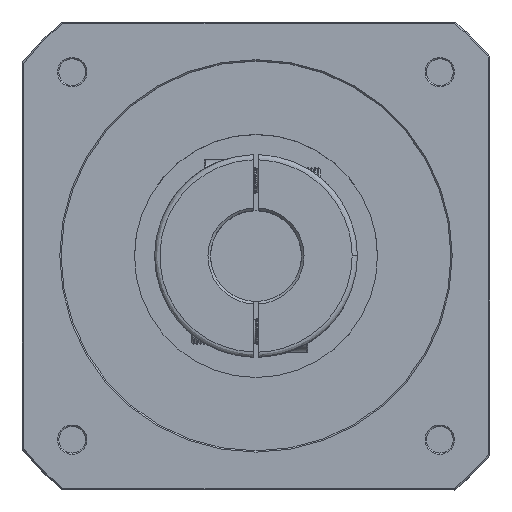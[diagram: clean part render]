
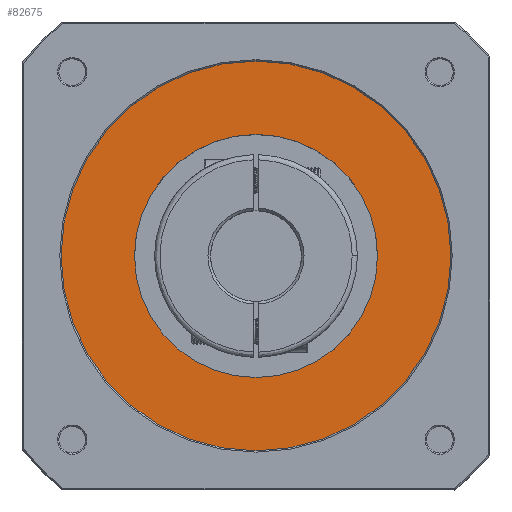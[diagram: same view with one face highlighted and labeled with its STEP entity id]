
A CAD part, top view. The second image highlights one B-rep face of the part: STEP entity #82675.
In plain terms, the highlighted planar face has unit normal (0, 0, -1).
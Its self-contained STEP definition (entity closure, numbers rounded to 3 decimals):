
#6024 = ORIENTED_EDGE ( 'NONE', *, *, #58544, .T. ) ;
#6358 = CARTESIAN_POINT ( 'NONE',  ( -46.75, 0., 157.5 ) ) ;
#11364 = CARTESIAN_POINT ( 'NONE',  ( 0., 0., 157.5 ) ) ;
#11596 = CARTESIAN_POINT ( 'NONE',  ( -75.9, -75.9, 157.5 ) ) ;
#13867 = CIRCLE ( 'NONE', #59118, 46.75 ) ;
#14301 = AXIS2_PLACEMENT_3D ( 'NONE', #63114, #15712, #71109 ) ;
#15712 = DIRECTION ( 'NONE',  ( 0., 0., -1. ) ) ;
#19392 = DIRECTION ( 'NONE',  ( -1., 0., 0. ) ) ;
#19628 = DIRECTION ( 'NONE',  ( 1., 0., 0. ) ) ;
#21132 = ORIENTED_EDGE ( 'NONE', *, *, #92180, .T. ) ;
#24842 = CARTESIAN_POINT ( 'NONE',  ( 0., 0., 157.5 ) ) ;
#31194 = VERTEX_POINT ( 'NONE', #62746 ) ;
#32801 = DIRECTION ( 'NONE',  ( 1., 0., 0. ) ) ;
#34982 = EDGE_CURVE ( 'NONE', #62116, #31194, #13867, .T. ) ;
#38250 = DIRECTION ( 'NONE',  ( 0., 0., 1. ) ) ;
#42141 = FACE_OUTER_BOUND ( 'NONE', #100954, .T. ) ;
#42724 = CARTESIAN_POINT ( 'NONE',  ( 75., 0., 157.5 ) ) ;
#45840 = AXIS2_PLACEMENT_3D ( 'NONE', #24842, #80212, #32801 ) ;
#58544 = EDGE_CURVE ( 'NONE', #95025, #91452, #75585, .T. ) ;
#59118 = AXIS2_PLACEMENT_3D ( 'NONE', #85642, #38250, #93592 ) ;
#60064 = EDGE_CURVE ( 'NONE', #31194, #62116, #93749, .T. ) ;
#60923 = ORIENTED_EDGE ( 'NONE', *, *, #60064, .T. ) ;
#62116 = VERTEX_POINT ( 'NONE', #6358 ) ;
#62746 = CARTESIAN_POINT ( 'NONE',  ( 46.75, 0., 157.5 ) ) ;
#63114 = CARTESIAN_POINT ( 'NONE',  ( 0., 0., 157.5 ) ) ;
#63968 = AXIS2_PLACEMENT_3D ( 'NONE', #11364, #66751, #19392 ) ;
#66751 = DIRECTION ( 'NONE',  ( 0., 0., 1. ) ) ;
#66988 = DIRECTION ( 'NONE',  ( 0., 0., 1. ) ) ;
#68152 = FACE_BOUND ( 'NONE', #76878, .T. ) ;
#71109 = DIRECTION ( 'NONE',  ( 1., 0., 0. ) ) ;
#75585 = CIRCLE ( 'NONE', #45840, 75. ) ;
#76777 = CARTESIAN_POINT ( 'NONE',  ( -75., 0., 157.5 ) ) ;
#76878 = EDGE_LOOP ( 'NONE', ( #98928, #60923 ) ) ;
#80212 = DIRECTION ( 'NONE',  ( 0., 0., -1. ) ) ;
#82675 = ADVANCED_FACE ( 'NONE', ( #68152, #42141 ), #90198, .F. ) ;
#85642 = CARTESIAN_POINT ( 'NONE',  ( 0., 0., 157.5 ) ) ;
#90198 = PLANE ( 'NONE',  #90731 ) ;
#90731 = AXIS2_PLACEMENT_3D ( 'NONE', #11596, #66988, #19628 ) ;
#91452 = VERTEX_POINT ( 'NONE', #76777 ) ;
#92180 = EDGE_CURVE ( 'NONE', #91452, #95025, #98746, .T. ) ;
#93592 = DIRECTION ( 'NONE',  ( -1., 0., 0. ) ) ;
#93749 = CIRCLE ( 'NONE', #63968, 46.75 ) ;
#95025 = VERTEX_POINT ( 'NONE', #42724 ) ;
#98746 = CIRCLE ( 'NONE', #14301, 75. ) ;
#98928 = ORIENTED_EDGE ( 'NONE', *, *, #34982, .T. ) ;
#100954 = EDGE_LOOP ( 'NONE', ( #6024, #21132 ) ) ;
